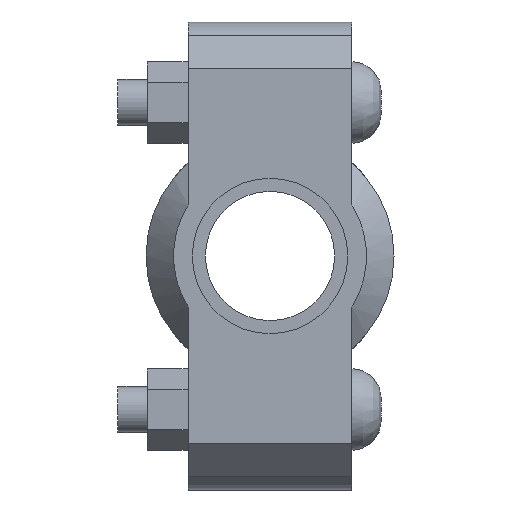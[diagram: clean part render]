
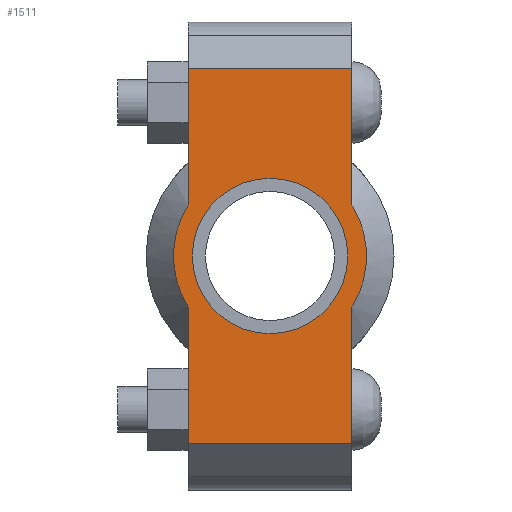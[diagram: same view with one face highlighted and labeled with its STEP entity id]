
A CAD part, left-side view. The second image highlights one B-rep face of the part: STEP entity #1511.
In plain terms, the highlighted planar face has unit normal (-1, 0, 0) as drawn and (0, 0, 1) by its records, which use the part's own axes.
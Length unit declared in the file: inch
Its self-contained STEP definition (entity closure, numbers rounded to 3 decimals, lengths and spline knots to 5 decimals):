
#122=LINE('',#2595,#217);
#137=LINE('',#2654,#232);
#145=LINE('',#2684,#240);
#147=LINE('',#2687,#242);
#148=LINE('',#2692,#243);
#149=LINE('',#2693,#244);
#217=VECTOR('',#2101,0.3937);
#232=VECTOR('',#2136,0.3937);
#240=VECTOR('',#2156,0.3937);
#242=VECTOR('',#2160,0.3937);
#243=VECTOR('',#2165,0.3937);
#244=VECTOR('',#2166,0.3937);
#304=FACE_BOUND('',#463,.T.);
#364=FACE_OUTER_BOUND('',#462,.T.);
#462=EDGE_LOOP('',(#1206,#1207,#1208,#1209,#1210,#1211,#1212,#1213));
#463=EDGE_LOOP('',(#1214));
#568=CIRCLE('',#1774,1.031);
#569=CIRCLE('',#1775,1.031);
#570=CIRCLE('',#1776,0.83);
#677=VERTEX_POINT('',#2592);
#678=VERTEX_POINT('',#2594);
#699=VERTEX_POINT('',#2649);
#700=VERTEX_POINT('',#2653);
#709=VERTEX_POINT('',#2679);
#710=VERTEX_POINT('',#2683);
#711=VERTEX_POINT('',#2689);
#712=VERTEX_POINT('',#2691);
#713=VERTEX_POINT('',#2695);
#847=EDGE_CURVE('',#678,#677,#122,.T.);
#872=EDGE_CURVE('',#700,#699,#137,.T.);
#885=EDGE_CURVE('',#710,#709,#145,.T.);
#887=EDGE_CURVE('',#710,#677,#147,.T.);
#888=EDGE_CURVE('',#709,#711,#568,.T.);
#889=EDGE_CURVE('',#711,#712,#148,.T.);
#890=EDGE_CURVE('',#700,#712,#149,.T.);
#891=EDGE_CURVE('',#699,#678,#569,.T.);
#892=EDGE_CURVE('',#713,#713,#570,.T.);
#1206=ORIENTED_EDGE('',*,*,#887,.F.);
#1207=ORIENTED_EDGE('',*,*,#885,.T.);
#1208=ORIENTED_EDGE('',*,*,#888,.T.);
#1209=ORIENTED_EDGE('',*,*,#889,.T.);
#1210=ORIENTED_EDGE('',*,*,#890,.F.);
#1211=ORIENTED_EDGE('',*,*,#872,.T.);
#1212=ORIENTED_EDGE('',*,*,#891,.T.);
#1213=ORIENTED_EDGE('',*,*,#847,.T.);
#1214=ORIENTED_EDGE('',*,*,#892,.T.);
#1363=PLANE('',#1773);
#1511=ADVANCED_FACE('',(#364,#304),#1363,.T.);
#1773=AXIS2_PLACEMENT_3D('',#2688,#2161,#2162);
#1774=AXIS2_PLACEMENT_3D('',#2690,#2163,#2164);
#1775=AXIS2_PLACEMENT_3D('',#2694,#2167,#2168);
#1776=AXIS2_PLACEMENT_3D('',#2696,#2169,#2170);
#2101=DIRECTION('',(1.,0.,0.));
#2136=DIRECTION('',(1.,0.,0.));
#2156=DIRECTION('',(-1.,0.,0.));
#2160=DIRECTION('',(0.,-1.,0.));
#2161=DIRECTION('center_axis',(0.,0.,1.));
#2162=DIRECTION('ref_axis',(-1.,0.,0.));
#2163=DIRECTION('center_axis',(0.,0.,1.));
#2164=DIRECTION('ref_axis',(1.,0.,0.));
#2165=DIRECTION('',(-1.,0.,0.));
#2166=DIRECTION('',(0.,1.,0.));
#2167=DIRECTION('center_axis',(0.,0.,1.));
#2168=DIRECTION('ref_axis',(1.,0.,0.));
#2169=DIRECTION('center_axis',(0.,0.,-1.));
#2170=DIRECTION('ref_axis',(1.,0.,0.));
#2592=CARTESIAN_POINT('',(2.,-0.875,0.94));
#2594=CARTESIAN_POINT('',(0.54529,-0.875,0.94));
#2595=CARTESIAN_POINT('',(-2.5,-0.875,0.94));
#2649=CARTESIAN_POINT('',(-0.54529,-0.875,0.94));
#2653=CARTESIAN_POINT('',(-2.,-0.875,0.94));
#2654=CARTESIAN_POINT('',(-2.5,-0.875,0.94));
#2679=CARTESIAN_POINT('',(0.54529,0.875,0.94));
#2683=CARTESIAN_POINT('',(2.,0.875,0.94));
#2684=CARTESIAN_POINT('',(2.5,0.875,0.94));
#2687=CARTESIAN_POINT('',(2.,-0.4375,0.94));
#2688=CARTESIAN_POINT('Origin',(0.,0.,
0.94));
#2689=CARTESIAN_POINT('',(-0.54529,0.875,0.94));
#2690=CARTESIAN_POINT('Origin',(0.,0.,0.94));
#2691=CARTESIAN_POINT('',(-2.,0.875,0.94));
#2692=CARTESIAN_POINT('',(2.5,0.875,0.94));
#2693=CARTESIAN_POINT('',(-2.,0.4375,0.94));
#2694=CARTESIAN_POINT('Origin',(0.,0.,0.94));
#2695=CARTESIAN_POINT('',(-0.83,0.,0.94));
#2696=CARTESIAN_POINT('Origin',(0.,0.,0.94));
